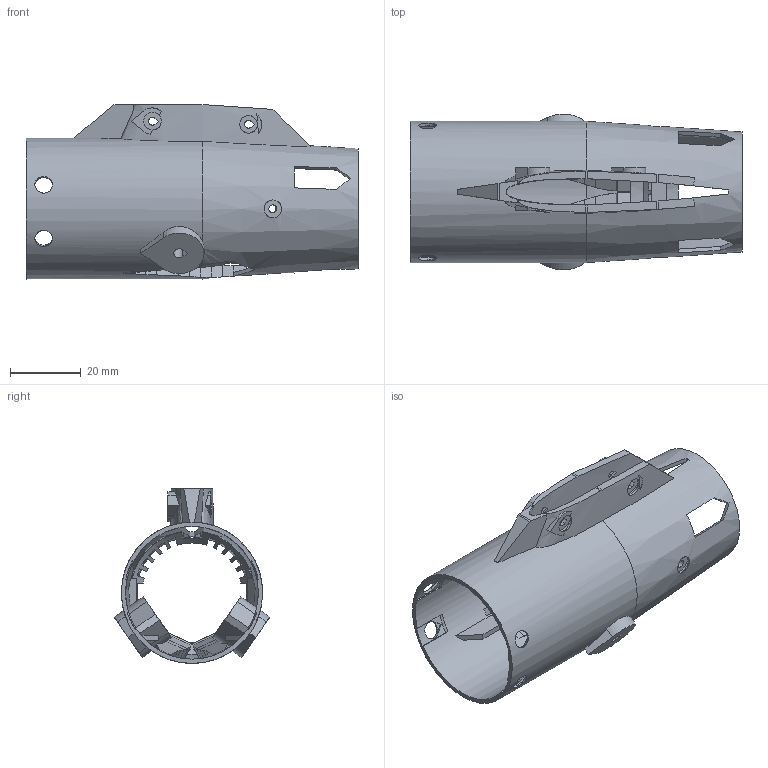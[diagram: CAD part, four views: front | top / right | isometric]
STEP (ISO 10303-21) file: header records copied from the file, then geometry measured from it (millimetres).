
FILE_DESCRIPTION(('SkyG Speed 90B - revision C6B-20 - 2026-10-16','F3-tail-module'),'2;1');
FILE_NAME('F3-tail-module_C6B-20','2026-10-16T01:43:24',('Author'),( 'Open CASCADE'),'Open CASCADE STEP processor 7.9','Open CASCADE 7.9' ,'Unknown');
FILE_SCHEMA(('AUTOMOTIVE_DESIGN { 1 0 10303 214 1 1 1 1 }'));
Products named in the file (1): F3-tail-module C6B-20
Bounding box: 94 x 44.07 x 49.5 mm (x, y, z)
Volume: 19169.9 mm3; surface area: 26331.1 mm2
Topology: 1 solids, 1 shells, 476 faces, 1432 edges, 959 vertices
Faces by surface type: plane 326, cylinder 99, bspline 39, cone 12
Full cylindrical faces by diameter (mm): 2.2 x2, 37.6 x1, 40 x1
Entity records: 53779 total; most frequent: CARTESIAN_POINT 28347, DIRECTION 3818, ORIENTED_EDGE 2864, PCURVE 2864, DEFINITIONAL_REPRESENTATION 2864, LINE 1895, VECTOR 1895, B_SPLINE_CURVE_WITH_KNOTS 1677
